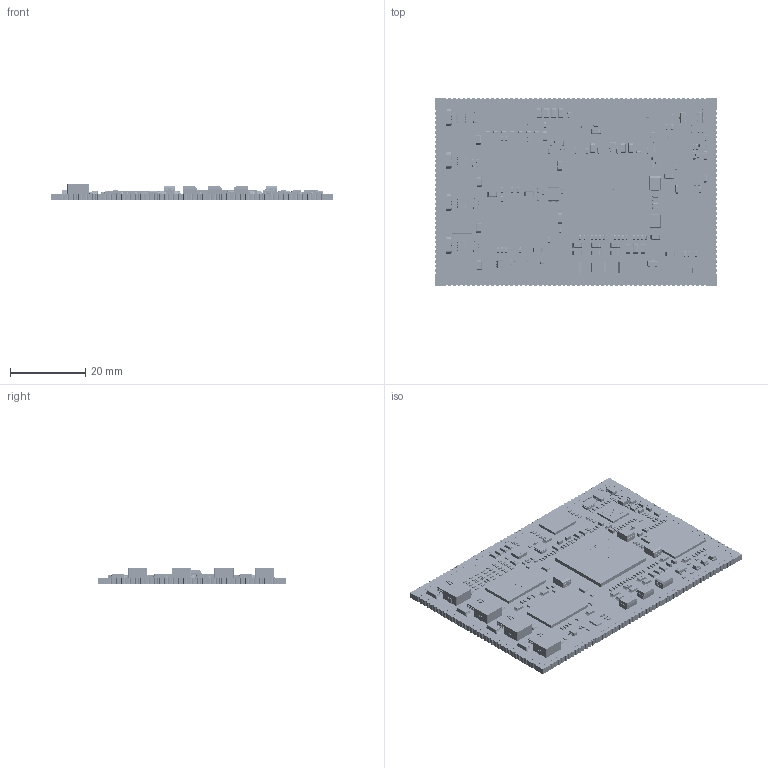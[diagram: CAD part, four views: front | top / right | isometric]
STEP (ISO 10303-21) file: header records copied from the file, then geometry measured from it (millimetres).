
FILE_DESCRIPTION (( 'STEP AP214' ), '1' );
FILE_NAME ('MYC-Y7Z010-20-0513-sw.STEP', '2022-05-13T09:24:37', ( '' ), ( '' ), 'SwSTEP 2.0', 'SolidWorks 2022', '' );
FILE_SCHEMA (( 'AUTOMOTIVE_DESIGN' ));
Length unit declared in the file: millimetre
Products named in the file (69): 858031856.stp; BGA400-1.stp; User Library-96-FBGA (14X9).stp; OSCCC320X250X80L90X100.stp; 894460672.stp; TSOT23-8.stp; PINBZ72_5X47_5.stp; Extruded_3.stp; R0402-0.stp; C0805-5.stp; Cylinder_2.stp; User Library-SOT-23-5_pin_SOT_sot-23-6_1.stp; WSON8-1_27-W.stp; C0402.stp; myc-y7z010-20-v2-pinbizhao.stp; User Library-TPS74801.stp; 857275360.stp; C0603-6.stp; VSON10.stp; User Library-QFN 48 6x6 pitch 0.4.stp; L2X2_5.stp; SC70-5.stp; TP_SMT.stp; YOUPK75X50_1_27-DIP.stp; SOT23-5.stp; Assy_FUSS tsot238___ _________.stp; C1206-4.stp; User Library-SOT-23-5.stp; BGA153_C010S.stp; User Library-Solid Tantalum Chip Capacitor.stp; FB0603-2.stp; MYC-Y7Z010-20-0513-sw; User Library-TSOT-23-8.stp; 858032240.stp; SOT-23.stp; Part TSOT-23-8___ _________.stp; Designator14.stp; MYC-Y7Z010-20-0513.stp; 3225.stp; Extruded.stp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
Assembly tree (523 placements, depth 8):
  MYC-Y7Z010-20-0513-sw
    MYC-Y7Z010-20-0513.stp
      COMPONENTS.stp
        PINBZ72_5X47_5.stp
          myc-y7z010-20-v2-pinbizhao.stp
        R0402.stp  x112
          R0402-0.stp
        C0402.stp  x79
          C0402-1.stp
        L2X2_5.stp
          L2520.stp
        3225.stp
          OSCCC320X250X80L90X100.stp
        QFN48-0_4.stp
          User Library-QFN 48 6x6 pitch 0.4.stp
        BGA153_C010S.stp
          BGA153-1.stp
        TP_SMT.stp  x181
          TEST0_8smd.stp
        VSON10.stp
          User Library-TPS74801.stp
        WSON8-1_27-W.stp
          User Library-WSON-8_6x8mm.stp
            Designator14.stp
              858032368.stp
                Extruded.stp
              858032240.stp  x8
                Cylinder.stp
              858031856.stp  x8
                Extruded_2.stp
              857275360.stp
                Cylinder_2.stp
              894460672.stp
                Extruded_3.stp
            Board.stp
        SOT-23.stp  x3
          SOT23-3.stp
        YOUPK75X50_1_27-DIP.stp
          myc-y7z010-END.stp
        FB0603.stp  x9
          FB0603-2.stp
        L5_2X5_5.stp  x4
          L5_7X5_5.stp
        BGA400.stp
          BGA400-1.stp
        FBGA96.stp  x2
          User Library-96-FBGA (14X9).stp
        LED0805.stp  x3
          SW3dPS-led805R-1.stp
        SOT23-5.stp
          User Library-SOT-23-5.stp
            User Library-SOT-23-5_pin_SOT_sot-23-6_1.stp  x5
            User Library-SOT-23-5_body_sot23-6_1.stp
        OS3225.stp
          OSCCC320X250X80L90X100.stp
        TSOT23-8.stp  x4
          User Library-TSOT-23-8.stp
            Assy_FUSS tsot238___ _________.stp  x2
              Fuss_TSOT-23-8___ _________.stp
            Part TSOT-23-8___ _________.stp
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Bounding box: 75 x 50 x 4.52 mm (x, y, z)
Volume: 7386.7 mm3; surface area: 13005 mm2
Topology: 851 solids, 963 shells, 49597 faces, 132805 edges, 89437 vertices
Faces by surface type: plane 21046, bspline 17064, cylinder 10535, torus 488, sphere 464
Entity records: 287349 total; most frequent: CARTESIAN_POINT 78730, ORIENTED_EDGE 38052, DIRECTION 34477, EDGE_CURVE 19030, VERTEX_POINT 12572, VECTOR 12125, LINE 12125, AXIS2_PLACEMENT_3D 11176
